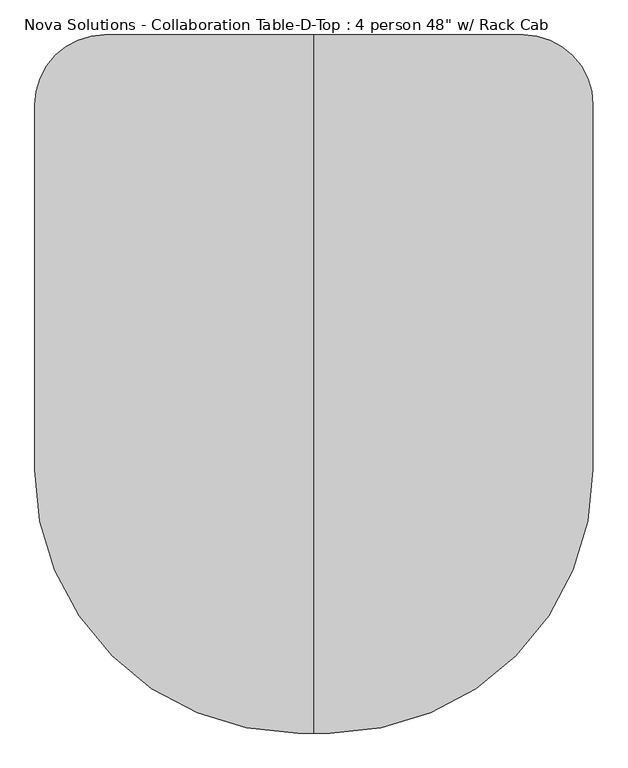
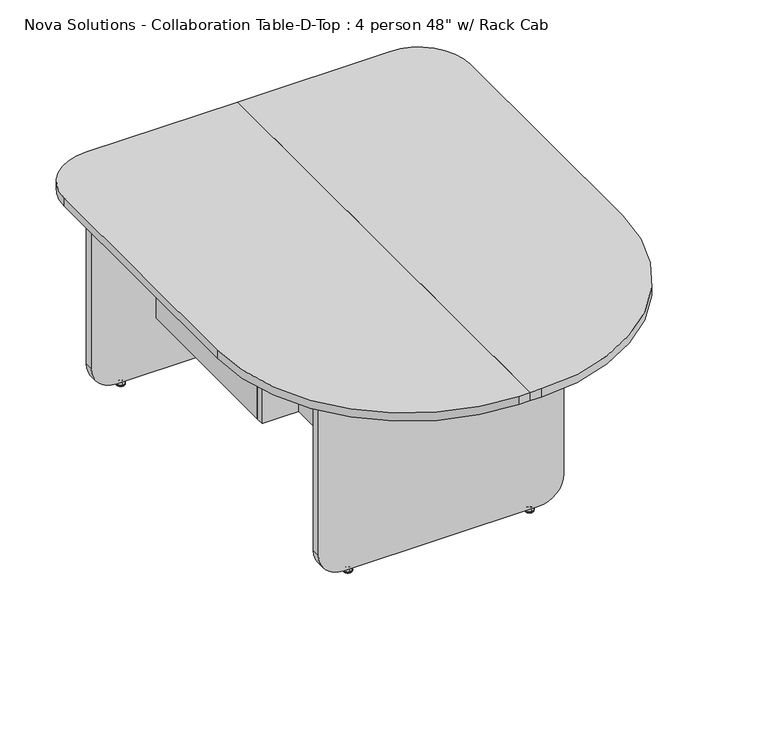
"""IFC4 building model written with IfcOpenShell, lengths in millimetres: furniture geometry."""

from ifc_helpers import new_model, si_unit, point, frame, frame_2d, origin, place, context, project, spatial, polyline, circle_curve, ellipse_curve, trimmed, segment, composite_curve, outline, extrude, source, transform, mapped, element, save
from ifc_brep_helpers import plane_surface, cylinder_surface, revolved_surface, advanced_brep


def furniture_77bb2e38(model_context):
    return source(origin(), model_context, "Body", "SolidModel", [
        extrude(outline(polyline([(-261.75, 733.4), (-245.55, 733.4), (-245.55, 206.0), (-261.75, 206.0), (-261.75, 733.4)])), frame((0.0, 0.0, 181.85), z_axis=(0.0, 0.0, 1.0), x_axis=(1.0, 0.0, 0.0)), (0.0, 0.0, 1.0), 553.0),
        extrude(outline(polyline([(245.55, 733.4), (261.75, 733.4), (261.75, 206.0), (245.55, 206.0), (245.55, 733.4)])), frame((0.0, 0.0, 181.85), z_axis=(0.0, 0.0, 1.0), x_axis=(1.0, 0.0, 0.0)), (0.0, 0.0, 1.0), 553.0),
        extrude(outline(polyline([(-136.57, 180.3), (-136.57, -271.3), (-152.77, -271.3), (-152.77, 180.3), (-136.57, 180.3)])), frame((0.0, 0.0, 181.85), z_axis=(0.0, 0.0, 1.0), x_axis=(1.0, 0.0, 0.0)), (0.0, 0.0, 1.0), 553.0),
        extrude(outline(polyline([(136.57, 180.3), (152.77, 180.3), (152.77, -271.3), (136.57, -271.3), (136.57, 180.3)])), frame((0.0, 0.0, 181.85), z_axis=(0.0, 0.0, 1.0), x_axis=(1.0, 0.0, 0.0)), (0.0, 0.0, 1.0), 553.0),
        advanced_brep(
        [(361.0578125, 752.9276506, 11.1125), (361.0578125, 739.5723494, 11.1125), (361.0578125, 746.25, 11.1125), (361.0578125, 752.9276506, 9.525), (361.0578125, 739.5723494, 9.525), (361.0578125, 758.1355135, 4.7748687), (361.0578125, 734.3644865, 4.7748687), (361.0578125, 758.9966506, 3.989419), (361.0578125, 733.5033494, 3.989419), (361.0578125, 758.9966506, 3.175), (361.0578125, 733.5033494, 3.175), (361.0578125, 758.1459119, 0.0), (361.0578125, 734.3540881, 0.0), (361.0578125, 746.25, 0.0)],
        [
            (0, 1, circle_curve(frame((361.0578125, 746.25, 11.1125), z_axis=(0.0, 0.0, 1.0), x_axis=(0.0, -1.0, 0.0)), 6.6776506)),
            (1, 2),
            (2, 0),
            (1, 0, circle_curve(frame((361.0578125, 746.25, 11.1125), z_axis=(0.0, 0.0, 1.0), x_axis=(0.0, -1.0, 0.0)), 6.6776506)),
            (3, 4, circle_curve(frame((361.0578125, 746.25, 9.525), z_axis=(0.0, 0.0, 1.0), x_axis=(0.0, -1.0, 0.0)), 6.6776506)),
            (4, 1),
            (0, 3),
            (4, 3, circle_curve(frame((361.0578125, 746.25, 9.525), z_axis=(0.0, 0.0, 1.0), x_axis=(0.0, -1.0, 0.0)), 6.6776506)),
            (5, 6, circle_curve(frame((361.0578125, 746.25, 4.7748687), z_axis=(0.0, 0.0, 1.0), x_axis=(0.0, -1.0, 0.0)), 11.8855135)),
            (6, 4, circle_curve(frame((361.0578125, 733.3179373, 11.1521822), z_axis=(1.0, 0.0, 0.0), x_axis=(0.0, 1.0, 0.0)), 6.462615)),
            (3, 5, circle_curve(frame((361.0578125, 759.1820627, 11.1521822), z_axis=(1.0, 0.0, 0.0), x_axis=(0.0, -1.0, 0.0)), 6.462615)),
            (6, 5, circle_curve(frame((361.0578125, 746.25, 4.7748687), z_axis=(0.0, 0.0, 1.0), x_axis=(0.0, -1.0, 0.0)), 11.8855135)),
            (7, 8, circle_curve(frame((361.0578125, 746.25, 3.989419), z_axis=(0.0, 0.0, 1.0), x_axis=(0.0, -1.0, 0.0)), 12.7466506)),
            (8, 6, circle_curve(frame((361.0578125, 734.5375368, 3.7203591), z_axis=(-1.0, 0.0, 0.0), x_axis=(0.0, 1.0, 0.0)), 1.0686145)),
            (5, 7, circle_curve(frame((361.0578125, 757.9624632, 3.7203591), z_axis=(-1.0, 0.0, 0.0), x_axis=(0.0, -1.0, 0.0)), 1.0686145)),
            (8, 7, circle_curve(frame((361.0578125, 746.25, 3.989419), z_axis=(0.0, 0.0, 1.0), x_axis=(0.0, -1.0, 0.0)), 12.7466506)),
            (9, 10, circle_curve(frame((361.0578125, 746.25, 3.175), z_axis=(0.0, 0.0, 1.0), x_axis=(0.0, -1.0, 0.0)), 12.7466506)),
            (10, 8),
            (7, 9),
            (10, 9, circle_curve(frame((361.0578125, 746.25, 3.175), z_axis=(0.0, 0.0, 1.0), x_axis=(0.0, -1.0, 0.0)), 12.7466506)),
            (11, 12, circle_curve(frame((361.0578125, 746.25, 0.0), z_axis=(0.0, 0.0, 1.0), x_axis=(0.0, -1.0, 0.0)), 11.8959119)),
            (12, 10),
            (9, 11),
            (12, 11, circle_curve(frame((361.0578125, 746.25, 0.0), z_axis=(0.0, 0.0, 1.0), x_axis=(0.0, -1.0, 0.0)), 11.8959119)),
            (13, 12),
            (11, 13),
        ],
        [
            plane_surface(frame((361.0578125, 746.25, 11.1125), z_axis=(0.0, 0.0, 1.0), x_axis=(0.0, -1.0, 0.0))),
            cylinder_surface(frame((361.0578125, 746.25, 43.2095994), z_axis=(0.0, 0.0, -1.0), x_axis=(0.0, -1.0, 0.0)), 6.6776506),
            revolved_surface(trimmed(ellipse_curve(frame((361.0578125, 733.3179373, 11.1521822), z_axis=(-1.0, 0.0, 0.0), x_axis=(0.0, 1.0, 0.0)), 6.462615, 6.462615), [point((361.0578125, 739.5723494, 9.525))], [point((361.0578125, 734.3644865, 4.7748687))], True, "CARTESIAN"), (361.0578125, 746.25, 43.2095994), (0.0, 0.0, -1.0)),
            revolved_surface(trimmed(ellipse_curve(frame((361.0578125, 734.5375368, 3.7203591), z_axis=(1.0, 0.0, 0.0), x_axis=(0.0, 1.0, 0.0)), 1.0686145, 1.0686145), [point((361.0578125, 734.3644865, 4.7748687))], [point((361.0578125, 733.5033494, 3.989419))], True, "CARTESIAN"), (361.0578125, 746.25, 43.2095994), (0.0, 0.0, -1.0)),
            cylinder_surface(frame((361.0578125, 746.25, 43.2095994), z_axis=(0.0, 0.0, -1.0), x_axis=(0.0, -1.0, 0.0)), 12.7466506),
            revolved_surface(polyline([(361.0578125, 733.5033494, 3.175), (361.0578125, 734.3540881, 0.0)]), (361.0578125, 746.25, 43.2095994), (0.0, 0.0, -1.0)),
            plane_surface(frame((361.0578125, 746.25, 0.0), z_axis=(0.0, 0.0, -1.0), x_axis=(0.0, -1.0, 0.0))),
        ],
        [
            (0, [[1, 2, 3]]),
            (0, [[4, -3, -2]]),
            (1, [[5, 6, -1, 7]]),
            (1, [[8, -7, -4, -6]]),
            (2, [[9, 10, -5, 11]]),
            (2, [[12, -11, -8, -10]]),
            (3, [[13, 14, -9, 15]]),
            (3, [[16, -15, -12, -14]]),
            (4, [[17, 18, -13, 19]]),
            (4, [[20, -19, -16, -18]]),
            (5, [[21, 22, -17, 23]]),
            (5, [[24, -23, -20, -22]]),
            (6, [[25, -21, 26]]),
            (6, [[-26, -24, -25]]),
        ],
    ),
        advanced_brep(
        [(-361.0578125, 752.9276506, 11.1125), (-361.0578125, 739.5723494, 11.1125), (-361.0578125, 746.25, 11.1125), (-361.0578125, 752.9276506, 9.525), (-361.0578125, 739.5723494, 9.525), (-361.0578125, 758.1355135, 4.7748687), (-361.0578125, 734.3644865, 4.7748687), (-361.0578125, 758.9966506, 3.989419), (-361.0578125, 733.5033494, 3.989419), (-361.0578125, 758.9966506, 3.175), (-361.0578125, 733.5033494, 3.175), (-361.0578125, 758.1459119, 0.0), (-361.0578125, 734.3540881, 0.0), (-361.0578125, 746.25, 0.0)],
        [
            (0, 1, circle_curve(frame((-361.0578125, 746.25, 11.1125), z_axis=(0.0, 0.0, 1.0), x_axis=(0.0, -1.0, 0.0)), 6.6776506)),
            (1, 2),
            (2, 0),
            (1, 0, circle_curve(frame((-361.0578125, 746.25, 11.1125), z_axis=(0.0, 0.0, 1.0), x_axis=(0.0, -1.0, 0.0)), 6.6776506)),
            (3, 4, circle_curve(frame((-361.0578125, 746.25, 9.525), z_axis=(0.0, 0.0, 1.0), x_axis=(0.0, -1.0, 0.0)), 6.6776506)),
            (4, 1),
            (0, 3),
            (4, 3, circle_curve(frame((-361.0578125, 746.25, 9.525), z_axis=(0.0, 0.0, 1.0), x_axis=(0.0, -1.0, 0.0)), 6.6776506)),
            (5, 6, circle_curve(frame((-361.0578125, 746.25, 4.7748687), z_axis=(0.0, 0.0, 1.0), x_axis=(0.0, -1.0, 0.0)), 11.8855135)),
            (6, 4, circle_curve(frame((-361.0578125, 733.3179373, 11.1521822), z_axis=(1.0, 0.0, 0.0), x_axis=(0.0, 1.0, 0.0)), 6.462615)),
            (3, 5, circle_curve(frame((-361.0578125, 759.1820627, 11.1521822), z_axis=(1.0, 0.0, 0.0), x_axis=(0.0, -1.0, 0.0)), 6.462615)),
            (6, 5, circle_curve(frame((-361.0578125, 746.25, 4.7748687), z_axis=(0.0, 0.0, 1.0), x_axis=(0.0, -1.0, 0.0)), 11.8855135)),
            (7, 8, circle_curve(frame((-361.0578125, 746.25, 3.989419), z_axis=(0.0, 0.0, 1.0), x_axis=(0.0, -1.0, 0.0)), 12.7466506)),
            (8, 6, circle_curve(frame((-361.0578125, 734.5375368, 3.7203591), z_axis=(-1.0, 0.0, 0.0), x_axis=(0.0, 1.0, 0.0)), 1.0686145)),
            (5, 7, circle_curve(frame((-361.0578125, 757.9624632, 3.7203591), z_axis=(-1.0, 0.0, 0.0), x_axis=(0.0, -1.0, 0.0)), 1.0686145)),
            (8, 7, circle_curve(frame((-361.0578125, 746.25, 3.989419), z_axis=(0.0, 0.0, 1.0), x_axis=(0.0, -1.0, 0.0)), 12.7466506)),
            (9, 10, circle_curve(frame((-361.0578125, 746.25, 3.175), z_axis=(0.0, 0.0, 1.0), x_axis=(0.0, -1.0, 0.0)), 12.7466506)),
            (10, 8),
            (7, 9),
            (10, 9, circle_curve(frame((-361.0578125, 746.25, 3.175), z_axis=(0.0, 0.0, 1.0), x_axis=(0.0, -1.0, 0.0)), 12.7466506)),
            (11, 12, circle_curve(frame((-361.0578125, 746.25, 0.0), z_axis=(0.0, 0.0, 1.0), x_axis=(0.0, -1.0, 0.0)), 11.8959119)),
            (12, 10),
            (9, 11),
            (12, 11, circle_curve(frame((-361.0578125, 746.25, 0.0), z_axis=(0.0, 0.0, 1.0), x_axis=(0.0, -1.0, 0.0)), 11.8959119)),
            (13, 12),
            (11, 13),
        ],
        [
            plane_surface(frame((-361.0578125, 746.25, 11.1125), z_axis=(0.0, 0.0, 1.0), x_axis=(0.0, -1.0, 0.0))),
            cylinder_surface(frame((-361.0578125, 746.25, 43.2095994), z_axis=(0.0, 0.0, -1.0), x_axis=(0.0, -1.0, 0.0)), 6.6776506),
            revolved_surface(trimmed(ellipse_curve(frame((-361.0578125, 733.3179373, 11.1521822), z_axis=(-1.0, 0.0, 0.0), x_axis=(0.0, 1.0, 0.0)), 6.462615, 6.462615), [point((-361.0578125, 739.5723494, 9.525))], [point((-361.0578125, 734.3644865, 4.7748687))], True, "CARTESIAN"), (-361.0578125, 746.25, 43.2095994), (0.0, 0.0, -1.0)),
            revolved_surface(trimmed(ellipse_curve(frame((-361.0578125, 734.5375368, 3.7203591), z_axis=(1.0, 0.0, 0.0), x_axis=(0.0, 1.0, 0.0)), 1.0686145, 1.0686145), [point((-361.0578125, 734.3644865, 4.7748687))], [point((-361.0578125, 733.5033494, 3.989419))], True, "CARTESIAN"), (-361.0578125, 746.25, 43.2095994), (0.0, 0.0, -1.0)),
            cylinder_surface(frame((-361.0578125, 746.25, 43.2095994), z_axis=(0.0, 0.0, -1.0), x_axis=(0.0, -1.0, 0.0)), 12.7466506),
            revolved_surface(polyline([(-361.0578125, 733.5033494, 3.175), (-361.0578125, 734.3540881, 0.0)]), (-361.0578125, 746.25, 43.2095994), (0.0, 0.0, -1.0)),
            plane_surface(frame((-361.0578125, 746.25, 0.0), z_axis=(0.0, 0.0, -1.0), x_axis=(0.0, -1.0, 0.0))),
        ],
        [
            (0, [[1, 2, 3]]),
            (0, [[4, -3, -2]]),
            (1, [[5, 6, -1, 7]]),
            (1, [[8, -7, -4, -6]]),
            (2, [[9, 10, -5, 11]]),
            (2, [[12, -11, -8, -10]]),
            (3, [[13, 14, -9, 15]]),
            (3, [[16, -15, -12, -14]]),
            (4, [[17, 18, -13, 19]]),
            (4, [[20, -19, -16, -18]]),
            (5, [[21, 22, -17, 23]]),
            (5, [[24, -23, -20, -22]]),
            (6, [[25, -21, 26]]),
            (6, [[-26, -24, -25]]),
        ],
    ),
        extrude(outline(composite_curve([segment(polyline([(734.85, 457.1), (734.85, -457.1), (90.15, -457.1)]), True, "CONTINUOUS"), segment(trimmed(circle_curve(frame_2d((90.15, -381.1)), 76.0), [point((90.15, -457.1))], [point((14.15, -381.1))], False, "CARTESIAN"), True, "CONTINUOUS"), segment(polyline([(14.15, -381.1), (14.15, 381.1)]), True, "CONTINUOUS"), segment(trimmed(circle_curve(frame_2d((90.15, 381.1)), 76.0), [point((14.15, 381.1))], [point((90.15, 457.1))], False, "CARTESIAN"), True, "CONTINUOUS"), segment(polyline([(90.15, 457.1), (734.85, 457.1)]), True, "CONTINUOUS")], self_intersect=False)), frame((0.0, 733.4, 0.0), z_axis=(0.0, 1.0, 0.0), x_axis=(0.0, 0.0, 1.0)), (0.0, 0.0, 1.0), 25.7),
        advanced_brep(
        [(272.9578125, -277.4723494, 11.1125), (272.9578125, -290.8276506, 11.1125), (272.9578125, -284.15, 11.1125), (272.9578125, -277.4723494, 9.525), (272.9578125, -290.8276506, 9.525), (272.9578125, -272.2644865, 4.7748687), (272.9578125, -296.0355135, 4.7748687), (272.9578125, -271.4033494, 3.989419), (272.9578125, -296.8966506, 3.989419), (272.9578125, -271.4033494, 3.175), (272.9578125, -296.8966506, 3.175), (272.9578125, -272.2540881, 0.0), (272.9578125, -296.0459119, 0.0), (272.9578125, -284.15, 0.0)],
        [
            (0, 1, circle_curve(frame((272.9578125, -284.15, 11.1125), z_axis=(0.0, 0.0, 1.0), x_axis=(0.0, -1.0, 0.0)), 6.6776506)),
            (1, 2),
            (2, 0),
            (1, 0, circle_curve(frame((272.9578125, -284.15, 11.1125), z_axis=(0.0, 0.0, 1.0), x_axis=(0.0, -1.0, 0.0)), 6.6776506)),
            (3, 4, circle_curve(frame((272.9578125, -284.15, 9.525), z_axis=(0.0, 0.0, 1.0), x_axis=(0.0, -1.0, 0.0)), 6.6776506)),
            (4, 1),
            (0, 3),
            (4, 3, circle_curve(frame((272.9578125, -284.15, 9.525), z_axis=(0.0, 0.0, 1.0), x_axis=(0.0, -1.0, 0.0)), 6.6776506)),
            (5, 6, circle_curve(frame((272.9578125, -284.15, 4.7748687), z_axis=(0.0, 0.0, 1.0), x_axis=(0.0, -1.0, 0.0)), 11.8855135)),
            (6, 4, circle_curve(frame((272.9578125, -297.0820627, 11.1521822), z_axis=(1.0, 0.0, 0.0), x_axis=(0.0, 1.0, 0.0)), 6.462615)),
            (3, 5, circle_curve(frame((272.9578125, -271.2179373, 11.1521822), z_axis=(1.0, 0.0, 0.0), x_axis=(0.0, -1.0, 0.0)), 6.462615)),
            (6, 5, circle_curve(frame((272.9578125, -284.15, 4.7748687), z_axis=(0.0, 0.0, 1.0), x_axis=(0.0, -1.0, 0.0)), 11.8855135)),
            (7, 8, circle_curve(frame((272.9578125, -284.15, 3.989419), z_axis=(0.0, 0.0, 1.0), x_axis=(0.0, -1.0, 0.0)), 12.7466506)),
            (8, 6, circle_curve(frame((272.9578125, -295.8624632, 3.7203591), z_axis=(-1.0, 0.0, 0.0), x_axis=(0.0, 1.0, 0.0)), 1.0686145)),
            (5, 7, circle_curve(frame((272.9578125, -272.4375368, 3.7203591), z_axis=(-1.0, 0.0, 0.0), x_axis=(0.0, -1.0, 0.0)), 1.0686145)),
            (8, 7, circle_curve(frame((272.9578125, -284.15, 3.989419), z_axis=(0.0, 0.0, 1.0), x_axis=(0.0, -1.0, 0.0)), 12.7466506)),
            (9, 10, circle_curve(frame((272.9578125, -284.15, 3.175), z_axis=(0.0, 0.0, 1.0), x_axis=(0.0, -1.0, 0.0)), 12.7466506)),
            (10, 8),
            (7, 9),
            (10, 9, circle_curve(frame((272.9578125, -284.15, 3.175), z_axis=(0.0, 0.0, 1.0), x_axis=(0.0, -1.0, 0.0)), 12.7466506)),
            (11, 12, circle_curve(frame((272.9578125, -284.15, 0.0), z_axis=(0.0, 0.0, 1.0), x_axis=(0.0, -1.0, 0.0)), 11.8959119)),
            (12, 10),
            (9, 11),
            (12, 11, circle_curve(frame((272.9578125, -284.15, 0.0), z_axis=(0.0, 0.0, 1.0), x_axis=(0.0, -1.0, 0.0)), 11.8959119)),
            (13, 12),
            (11, 13),
        ],
        [
            plane_surface(frame((272.9578125, -284.15, 11.1125), z_axis=(0.0, 0.0, 1.0), x_axis=(0.0, -1.0, 0.0))),
            cylinder_surface(frame((272.9578125, -284.15, 43.2095994), z_axis=(0.0, 0.0, -1.0), x_axis=(0.0, -1.0, 0.0)), 6.6776506),
            revolved_surface(trimmed(ellipse_curve(frame((272.9578125, -297.0820627, 11.1521822), z_axis=(-1.0, 0.0, 0.0), x_axis=(0.0, 1.0, 0.0)), 6.462615, 6.462615), [point((272.9578125, -290.8276506, 9.525))], [point((272.9578125, -296.0355135, 4.7748687))], True, "CARTESIAN"), (272.9578125, -284.15, 43.2095994), (0.0, 0.0, -1.0)),
            revolved_surface(trimmed(ellipse_curve(frame((272.9578125, -295.8624632, 3.7203591), z_axis=(1.0, 0.0, 0.0), x_axis=(0.0, 1.0, 0.0)), 1.0686145, 1.0686145), [point((272.9578125, -296.0355135, 4.7748687))], [point((272.9578125, -296.8966506, 3.989419))], True, "CARTESIAN"), (272.9578125, -284.15, 43.2095994), (0.0, 0.0, -1.0)),
            cylinder_surface(frame((272.9578125, -284.15, 43.2095994), z_axis=(0.0, 0.0, -1.0), x_axis=(0.0, -1.0, 0.0)), 12.7466506),
            revolved_surface(polyline([(272.9578125, -296.8966506, 3.175), (272.9578125, -296.0459119, 0.0)]), (272.9578125, -284.15, 43.2095994), (0.0, 0.0, -1.0)),
            plane_surface(frame((272.9578125, -284.15, 0.0), z_axis=(0.0, 0.0, -1.0), x_axis=(0.0, -1.0, 0.0))),
        ],
        [
            (0, [[1, 2, 3]]),
            (0, [[4, -3, -2]]),
            (1, [[5, 6, -1, 7]]),
            (1, [[8, -7, -4, -6]]),
            (2, [[9, 10, -5, 11]]),
            (2, [[12, -11, -8, -10]]),
            (3, [[13, 14, -9, 15]]),
            (3, [[16, -15, -12, -14]]),
            (4, [[17, 18, -13, 19]]),
            (4, [[20, -19, -16, -18]]),
            (5, [[21, 22, -17, 23]]),
            (5, [[24, -23, -20, -22]]),
            (6, [[25, -21, 26]]),
            (6, [[-26, -24, -25]]),
        ],
    ),
        advanced_brep(
        [(-272.9578125, -277.4723494, 11.1125), (-272.9578125, -290.8276506, 11.1125), (-272.9578125, -284.15, 11.1125), (-272.9578125, -277.4723494, 9.525), (-272.9578125, -290.8276506, 9.525), (-272.9578125, -272.2644865, 4.7748687), (-272.9578125, -296.0355135, 4.7748687), (-272.9578125, -271.4033494, 3.989419), (-272.9578125, -296.8966506, 3.989419), (-272.9578125, -271.4033494, 3.175), (-272.9578125, -296.8966506, 3.175), (-272.9578125, -272.2540881, 0.0), (-272.9578125, -296.0459119, 0.0), (-272.9578125, -284.15, 0.0)],
        [
            (0, 1, circle_curve(frame((-272.9578125, -284.15, 11.1125), z_axis=(0.0, 0.0, 1.0), x_axis=(0.0, -1.0, 0.0)), 6.6776506)),
            (1, 2),
            (2, 0),
            (1, 0, circle_curve(frame((-272.9578125, -284.15, 11.1125), z_axis=(0.0, 0.0, 1.0), x_axis=(0.0, -1.0, 0.0)), 6.6776506)),
            (3, 4, circle_curve(frame((-272.9578125, -284.15, 9.525), z_axis=(0.0, 0.0, 1.0), x_axis=(0.0, -1.0, 0.0)), 6.6776506)),
            (4, 1),
            (0, 3),
            (4, 3, circle_curve(frame((-272.9578125, -284.15, 9.525), z_axis=(0.0, 0.0, 1.0), x_axis=(0.0, -1.0, 0.0)), 6.6776506)),
            (5, 6, circle_curve(frame((-272.9578125, -284.15, 4.7748687), z_axis=(0.0, 0.0, 1.0), x_axis=(0.0, -1.0, 0.0)), 11.8855135)),
            (6, 4, circle_curve(frame((-272.9578125, -297.0820627, 11.1521822), z_axis=(1.0, 0.0, 0.0), x_axis=(0.0, 1.0, 0.0)), 6.462615)),
            (3, 5, circle_curve(frame((-272.9578125, -271.2179373, 11.1521822), z_axis=(1.0, 0.0, 0.0), x_axis=(0.0, -1.0, 0.0)), 6.462615)),
            (6, 5, circle_curve(frame((-272.9578125, -284.15, 4.7748687), z_axis=(0.0, 0.0, 1.0), x_axis=(0.0, -1.0, 0.0)), 11.8855135)),
            (7, 8, circle_curve(frame((-272.9578125, -284.15, 3.989419), z_axis=(0.0, 0.0, 1.0), x_axis=(0.0, -1.0, 0.0)), 12.7466506)),
            (8, 6, circle_curve(frame((-272.9578125, -295.8624632, 3.7203591), z_axis=(-1.0, 0.0, 0.0), x_axis=(0.0, 1.0, 0.0)), 1.0686145)),
            (5, 7, circle_curve(frame((-272.9578125, -272.4375368, 3.7203591), z_axis=(-1.0, 0.0, 0.0), x_axis=(0.0, -1.0, 0.0)), 1.0686145)),
            (8, 7, circle_curve(frame((-272.9578125, -284.15, 3.989419), z_axis=(0.0, 0.0, 1.0), x_axis=(0.0, -1.0, 0.0)), 12.7466506)),
            (9, 10, circle_curve(frame((-272.9578125, -284.15, 3.175), z_axis=(0.0, 0.0, 1.0), x_axis=(0.0, -1.0, 0.0)), 12.7466506)),
            (10, 8),
            (7, 9),
            (10, 9, circle_curve(frame((-272.9578125, -284.15, 3.175), z_axis=(0.0, 0.0, 1.0), x_axis=(0.0, -1.0, 0.0)), 12.7466506)),
            (11, 12, circle_curve(frame((-272.9578125, -284.15, 0.0), z_axis=(0.0, 0.0, 1.0), x_axis=(0.0, -1.0, 0.0)), 11.8959119)),
            (12, 10),
            (9, 11),
            (12, 11, circle_curve(frame((-272.9578125, -284.15, 0.0), z_axis=(0.0, 0.0, 1.0), x_axis=(0.0, -1.0, 0.0)), 11.8959119)),
            (13, 12),
            (11, 13),
        ],
        [
            plane_surface(frame((-272.9578125, -284.15, 11.1125), z_axis=(0.0, 0.0, 1.0), x_axis=(0.0, -1.0, 0.0))),
            cylinder_surface(frame((-272.9578125, -284.15, 43.2095994), z_axis=(0.0, 0.0, -1.0), x_axis=(0.0, -1.0, 0.0)), 6.6776506),
            revolved_surface(trimmed(ellipse_curve(frame((-272.9578125, -297.0820627, 11.1521822), z_axis=(-1.0, 0.0, 0.0), x_axis=(0.0, 1.0, 0.0)), 6.462615, 6.462615), [point((-272.9578125, -290.8276506, 9.525))], [point((-272.9578125, -296.0355135, 4.7748687))], True, "CARTESIAN"), (-272.9578125, -284.15, 43.2095994), (0.0, 0.0, -1.0)),
            revolved_surface(trimmed(ellipse_curve(frame((-272.9578125, -295.8624632, 3.7203591), z_axis=(1.0, 0.0, 0.0), x_axis=(0.0, 1.0, 0.0)), 1.0686145, 1.0686145), [point((-272.9578125, -296.0355135, 4.7748687))], [point((-272.9578125, -296.8966506, 3.989419))], True, "CARTESIAN"), (-272.9578125, -284.15, 43.2095994), (0.0, 0.0, -1.0)),
            cylinder_surface(frame((-272.9578125, -284.15, 43.2095994), z_axis=(0.0, 0.0, -1.0), x_axis=(0.0, -1.0, 0.0)), 12.7466506),
            revolved_surface(polyline([(-272.9578125, -296.8966506, 3.175), (-272.9578125, -296.0459119, 0.0)]), (-272.9578125, -284.15, 43.2095994), (0.0, 0.0, -1.0)),
            plane_surface(frame((-272.9578125, -284.15, 0.0), z_axis=(0.0, 0.0, -1.0), x_axis=(0.0, -1.0, 0.0))),
        ],
        [
            (0, [[1, 2, 3]]),
            (0, [[4, -3, -2]]),
            (1, [[5, 6, -1, 7]]),
            (1, [[8, -7, -4, -6]]),
            (2, [[9, 10, -5, 11]]),
            (2, [[12, -11, -8, -10]]),
            (3, [[13, 14, -9, 15]]),
            (3, [[16, -15, -12, -14]]),
            (4, [[17, 18, -13, 19]]),
            (4, [[20, -19, -16, -18]]),
            (5, [[21, 22, -17, 23]]),
            (5, [[24, -23, -20, -22]]),
            (6, [[25, -21, 26]]),
            (6, [[-26, -24, -25]]),
        ],
    ),
        extrude(outline(composite_curve([segment(polyline([(734.85, 369.0), (734.85, -369.0), (90.15, -369.0)]), True, "CONTINUOUS"), segment(trimmed(circle_curve(frame_2d((90.15, -293.0)), 76.0), [point((90.15, -369.0))], [point((14.15, -293.0))], False, "CARTESIAN"), True, "CONTINUOUS"), segment(polyline([(14.15, -293.0), (14.15, 293.0)]), True, "CONTINUOUS"), segment(trimmed(circle_curve(frame_2d((90.15, 293.0)), 76.0), [point((14.15, 293.0))], [point((90.15, 369.0))], False, "CARTESIAN"), True, "CONTINUOUS"), segment(polyline([(90.15, 369.0), (734.85, 369.0)]), True, "CONTINUOUS")], self_intersect=False)), frame((0.0, -297.0, 0.0), z_axis=(0.0, 1.0, 0.0), x_axis=(0.0, 0.0, 1.0)), (0.0, 0.0, 1.0), 25.7),
        extrude(outline(polyline([(-261.75, 206.0), (261.75, 206.0), (261.75, 180.3), (-261.75, 180.3), (-261.75, 206.0)])), frame((0.0, 0.0, 181.85), z_axis=(0.0, 0.0, 1.0), x_axis=(1.0, 0.0, 0.0)), (0.0, 0.0, 1.0), 553.0),
        extrude(outline(composite_curve([segment(trimmed(circle_curve(frame_2d((34.6, -187.0)), 575.0), [point((609.6, -187.0))], [point((34.6, -762.0))], False, "CARTESIAN"), True, "CONTINUOUS"), segment(polyline([(34.6, -762.0), (0.0, -762.0), (0.0, 762.0), (457.2, 762.0)]), True, "CONTINUOUS"), segment(trimmed(circle_curve(frame_2d((457.2, 609.6)), 152.4), [point((457.2, 762.0))], [point((609.6, 609.6))], False, "CARTESIAN"), True, "CONTINUOUS"), segment(polyline([(609.6, 609.6), (609.6, -187.0)]), True, "CONTINUOUS")], self_intersect=False)), frame((0.0, 0.0, 734.85), z_axis=(0.0, 0.0, 1.0), x_axis=(1.0, 0.0, 0.0)), (0.0, 0.0, 1.0), 25.7),
        extrude(outline(composite_curve([segment(polyline([(0.0, 762.0), (0.0, -762.0), (-34.6, -762.0)]), True, "CONTINUOUS"), segment(trimmed(circle_curve(frame_2d((-34.6, -187.0)), 575.0), [point((-34.6, -762.0))], [point((-609.6, -187.0))], False, "CARTESIAN"), True, "CONTINUOUS"), segment(polyline([(-609.6, -187.0), (-609.6, 609.6)]), True, "CONTINUOUS"), segment(trimmed(circle_curve(frame_2d((-457.2, 609.6)), 152.4), [point((-609.6, 609.6))], [point((-457.2, 762.0))], False, "CARTESIAN"), True, "CONTINUOUS"), segment(polyline([(-457.2, 762.0), (0.0, 762.0)]), True, "CONTINUOUS")], self_intersect=False)), frame((0.0, 0.0, 734.85), z_axis=(0.0, 0.0, 1.0), x_axis=(1.0, 0.0, 0.0)), (0.0, 0.0, 1.0), 25.7),
    ])


if __name__ == "__main__":
    model = new_model("IFC4")
    model_context = context("Model", 3, world=origin())
    ifc_project = project(units=[si_unit("LENGTHUNIT", "METRE", prefix="MILLI")], contexts=[model_context])
    site = spatial("IfcSite", under=ifc_project)
    building = spatial("IfcBuilding", under=site)
    placement = place(None, origin())
    furniture_shape = furniture_77bb2e38(model_context)
    element("IfcFurniture", 1, ObjectType="Nova Solutions - Collaboration Table-D-Top : 4 person 48\" w/ Rack Cab", at=placement, inside=building, context=model_context, shape_type="MappedRepresentation", body=[
        mapped(furniture_shape, transform((0.0, 0.0, 0.0), x_axis=(1.0, 0.0, 0.0), y_axis=(0.0, 1.0, 0.0), z_axis=(0.0, 0.0, 1.0))),
    ])
    save(model, "model.ifc")
